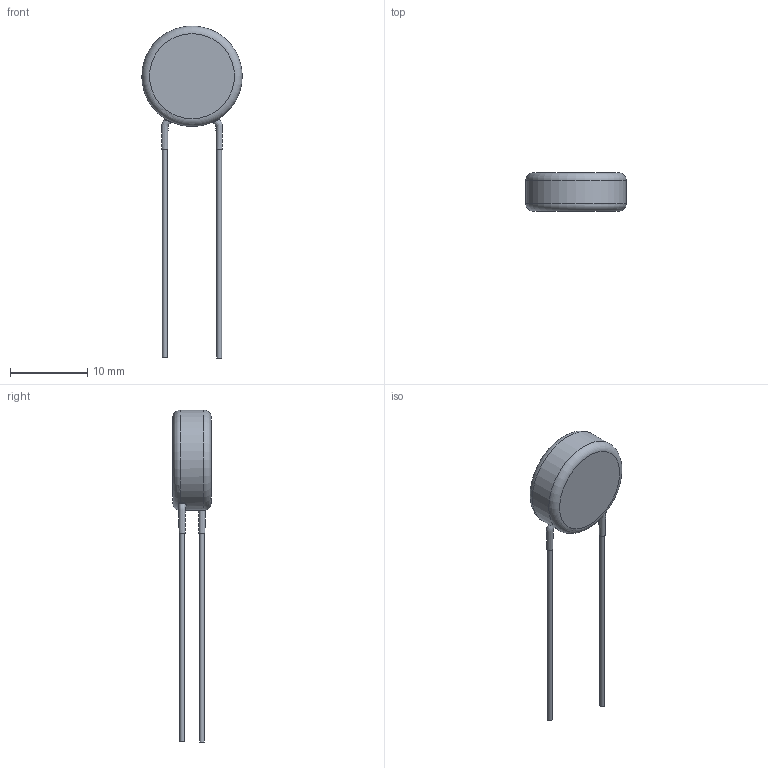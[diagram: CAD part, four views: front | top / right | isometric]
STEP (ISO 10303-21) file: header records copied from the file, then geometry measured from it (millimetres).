
FILE_DESCRIPTION(/* description */ (''),/* implementation_level */ '2;1');
FILE_NAME(/* name */ 'I:\Marketing\M6t1\3D-Models\Zchng-Werk-3\Upload for homepage\BCC neu\AY2 Straight\Step\AY2472#49Y5US63L7.stp',/* time_stamp */ '2023-07-13T14:09:08+02:00',/* author */ ('truediger'),/* organization */ (''),/* preprocessor_version */ 'ST-DEVELOPER v18',/* originating_system */ 'Autodesk Inventor 2020',/* authorisation */ '');
FILE_SCHEMA (('AUTOMOTIVE_DESIGN { 1 0 10303 214 3 1 1 }'));
Length unit declared in the file: millimetre
Products named in the file (1): Bauteil2
Bounding box: 13 x 5 x 43 mm (x, y, z)
Volume: 666.4 mm3; surface area: 555.9 mm2
Topology: 1 solids, 1 shells, 19 faces, 43 edges, 28 vertices
Faces by surface type: bspline 8, plane 6, cylinder 3, torus 2
Full cylindrical faces by diameter (mm): 0.6 x2, 13 x1
Entity records: 1922 total; most frequent: CARTESIAN_POINT 1461, ORIENTED_EDGE 86, DIRECTION 75, EDGE_CURVE 43, AXIS2_PLACEMENT_3D 36, VERTEX_POINT 28, CIRCLE 24, EDGE_LOOP 21
